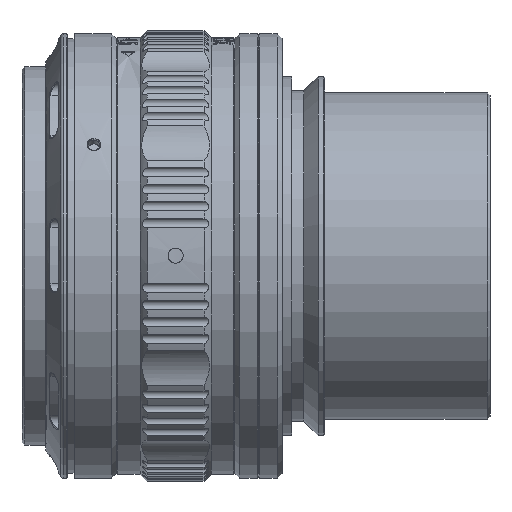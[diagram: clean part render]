
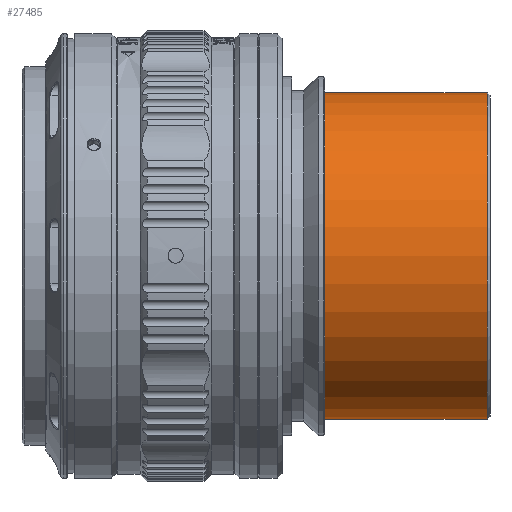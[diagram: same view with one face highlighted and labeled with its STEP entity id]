
A CAD part, top view. The second image highlights one B-rep face of the part: STEP entity #27485.
In plain terms, the highlighted cylindrical face has radius 17.25 mm (diameter 34.5 mm), a partial arc.
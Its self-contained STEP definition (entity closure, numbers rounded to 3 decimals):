
#9640=CARTESIAN_POINT('',(1.635,0.,0.));
#9641=DIRECTION('',(1.,0.,0.));
#9642=DIRECTION('',(0.,1.,0.));
#9643=AXIS2_PLACEMENT_3D('',#9640,#9641,#9642);
#9660=DIRECTION('',(-1.,0.,0.));
#9661=VECTOR('',#9660,17.2);
#9662=CARTESIAN_POINT('',(18.835,17.25,
0.));
#9663=LINE('',#9662,#9661);
#9664=DIRECTION('',(-1.,0.,0.));
#9665=VECTOR('',#9664,17.2);
#9666=CARTESIAN_POINT('',(18.835,-17.25,
0.));
#9667=LINE('',#9666,#9665);
#9676=CARTESIAN_POINT('',(18.835,0.,0.));
#9677=DIRECTION('',(-1.,0.,0.));
#9678=DIRECTION('',(0.,-1.,0.));
#9679=AXIS2_PLACEMENT_3D('',#9676,#9677,#9678);
#12030=CARTESIAN_POINT('',(1.635,17.25,0.));
#12031=CARTESIAN_POINT('',(1.635,-17.25,0.));
#12032=VERTEX_POINT('',#12030);
#12033=VERTEX_POINT('',#12031);
#12034=CARTESIAN_POINT('',(18.835,-17.25,0.));
#12035=CARTESIAN_POINT('',(18.835,17.25,0.));
#12036=VERTEX_POINT('',#12034);
#12037=VERTEX_POINT('',#12035);
#27474=CARTESIAN_POINT('',(-26.54,0.,0.));
#27475=DIRECTION('',(1.,0.,0.));
#27476=DIRECTION('',(0.,-1.,0.));
#27477=AXIS2_PLACEMENT_3D('',#27474,#27475,#27476);
#27478=CYLINDRICAL_SURFACE('',#27477,17.25);
#27479=ORIENTED_EDGE('',*,*,#27465,.F.);
#27480=ORIENTED_EDGE('',*,*,#27440,.T.);
#27481=ORIENTED_EDGE('',*,*,#27425,.F.);
#27482=ORIENTED_EDGE('',*,*,#27437,.F.);
#27483=EDGE_LOOP('',(#27479,#27480,#27481,#27482));
#27484=FACE_OUTER_BOUND('',#27483,.F.);
#9644=CIRCLE('',#9643,17.25);
#9680=CIRCLE('',#9679,17.25);
#27425=EDGE_CURVE('',#12032,#12033,#9644,.T.);
#27437=EDGE_CURVE('',#12037,#12032,#9663,.T.);
#27440=EDGE_CURVE('',#12036,#12033,#9667,.T.);
#27465=EDGE_CURVE('',#12036,#12037,#9680,.T.);
#27485=ADVANCED_FACE('',(#27484),#27478,.T.);
